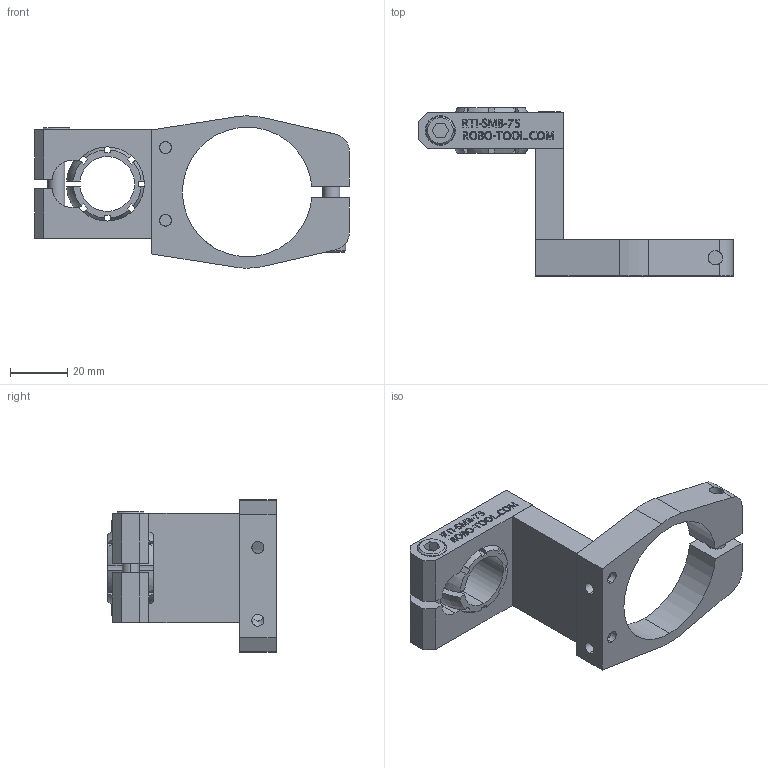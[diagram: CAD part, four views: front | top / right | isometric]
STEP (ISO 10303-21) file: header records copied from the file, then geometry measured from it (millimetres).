
FILE_DESCRIPTION (( 'STEP AP214' ), '1' );
FILE_NAME ('RTI-SNM-75-SPT20-125.STEP', '2013-10-22T20:18:04', ( 'user' ), ( '' ), 'SwSTEP 2.0', 'SolidWorks 2009', '' );
FILE_SCHEMA (( 'AUTOMOTIVE_DESIGN' ));
Length unit declared in the file: inch
Products named in the file (11): RTI-SMB-75; 1.125 OD_.758 ID_Swivel_Ball; RTI-NM-SPT20; RTI-NM-45-B; M6 WASHER; M6 S.H.C.S._M6x30mm; RTI-SM-SP-125; M5 WASHER; M5 S.H.C.S._M5x50mm; RTI-SNM-75-SPT20-125
Assembly tree (14 placements, depth 3):
  RTI-SNM-75-SPT20-125
    RTI-SMB-75
      M6 WASHER
      M6 S.H.C.S._M6x30mm
      RTI-SMB-75
      1.125 OD_.758 ID_Swivel_Ball
    M5 WASHER  x2
    RTI-NM-SPT20
      M6 WASHER
      RTI-NM-45-B
      M6 S.H.C.S._M6x30mm
    M5 S.H.C.S._M5x50mm  x2
    RTI-SM-SP-125
Bounding box: 110.01 x 58.74 x 53.18 mm (x, y, z)
Volume: 50358.5 mm3; surface area: 28775.3 mm2
Topology: 12 solids, 12 shells, 1087 faces, 2824 edges, 1877 vertices
Faces by surface type: plane 670, bspline 307, cylinder 83, cone 17, torus 8, sphere 2
Entity records: 62537 total; most frequent: CARTESIAN_POINT 27521, ORIENTED_EDGE 5438, DIRECTION 3731, EDGE_CURVE 2719, LINE 1915, VECTOR 1915, VERTEX_POINT 1810, EDGE_LOOP 1181
